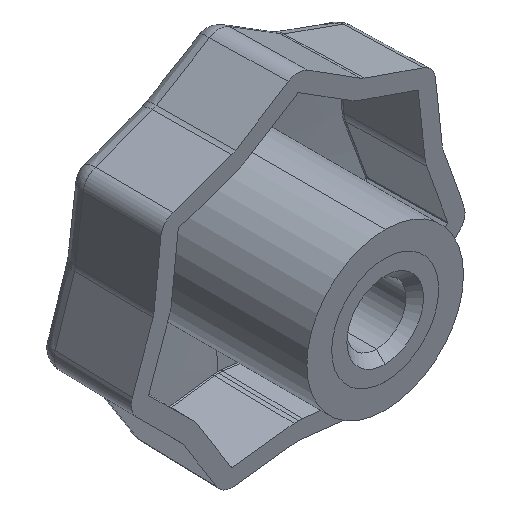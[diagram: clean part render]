
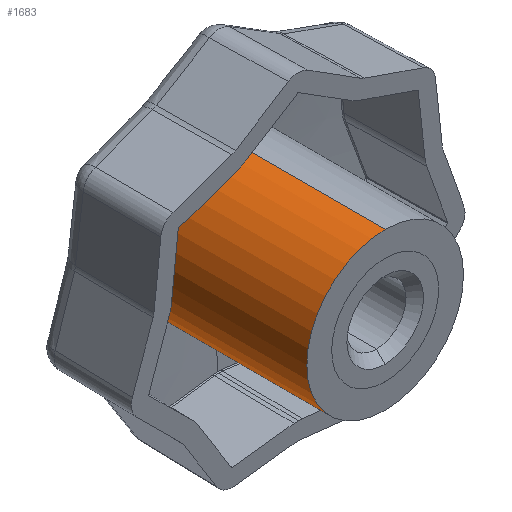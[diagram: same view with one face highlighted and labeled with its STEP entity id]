
A CAD part, isometric view. The second image highlights one B-rep face of the part: STEP entity #1683.
In plain terms, the highlighted cylindrical face has radius 9 mm (diameter 18 mm), a partial arc.
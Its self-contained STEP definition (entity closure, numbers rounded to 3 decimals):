
#18 = DIRECTION ( 'NONE',  ( 0., -1., 0. ) ) ;
#24 = VERTEX_POINT ( 'NONE', #2868 ) ;
#570 = ORIENTED_EDGE ( 'NONE', *, *, #3382, .T. ) ;
#643 = CARTESIAN_POINT ( 'NONE',  ( 0., 12.001, -9. ) ) ;
#740 = AXIS2_PLACEMENT_3D ( 'NONE', #4335, #18, #3965 ) ;
#1037 = DIRECTION ( 'NONE',  ( 0., -1., 0. ) ) ;
#1248 = VERTEX_POINT ( 'NONE', #4825 ) ;
#1569 = CARTESIAN_POINT ( 'NONE',  ( 0., -10., 0. ) ) ;
#1683 = ADVANCED_FACE ( 'NONE', ( #3933 ), #4812, .T. ) ;
#1733 = CARTESIAN_POINT ( 'NONE',  ( 0., 9.542, 0. ) ) ;
#1834 = LINE ( 'NONE', #643, #4904 ) ;
#1953 = DIRECTION ( 'NONE',  ( 0., 0., 1. ) ) ;
#2063 = AXIS2_PLACEMENT_3D ( 'NONE', #1733, #4442, #2124 ) ;
#2124 = DIRECTION ( 'NONE',  ( 0., 0., -1. ) ) ;
#2277 = DIRECTION ( 'NONE',  ( 0., -1., 0. ) ) ;
#2315 = LINE ( 'NONE', #3411, #3486 ) ;
#2454 = CARTESIAN_POINT ( 'NONE',  ( 0., -10., -9. ) ) ;
#2868 = CARTESIAN_POINT ( 'NONE',  ( 0., 9.542, 9. ) ) ;
#3033 = ORIENTED_EDGE ( 'NONE', *, *, #4394, .F. ) ;
#3314 = AXIS2_PLACEMENT_3D ( 'NONE', #1569, #4281, #1953 ) ;
#3382 = EDGE_CURVE ( 'NONE', #3521, #3930, #5027, .T. ) ;
#3411 = CARTESIAN_POINT ( 'NONE',  ( 0., 12.001, 9. ) ) ;
#3486 = VECTOR ( 'NONE', #1037, 1000. ) ;
#3514 = EDGE_LOOP ( 'NONE', ( #3033, #3767, #4237, #570 ) ) ;
#3521 = VERTEX_POINT ( 'NONE', #2454 ) ;
#3767 = ORIENTED_EDGE ( 'NONE', *, *, #4674, .T. ) ;
#3930 = VERTEX_POINT ( 'NONE', #4503 ) ;
#3933 = FACE_OUTER_BOUND ( 'NONE', #3514, .T. ) ;
#3965 = DIRECTION ( 'NONE',  ( 0., 0., -1. ) ) ;
#4027 = EDGE_CURVE ( 'NONE', #1248, #3521, #1834, .T. ) ;
#4237 = ORIENTED_EDGE ( 'NONE', *, *, #4027, .T. ) ;
#4281 = DIRECTION ( 'NONE',  ( 0., 1., 0. ) ) ;
#4335 = CARTESIAN_POINT ( 'NONE',  ( 0., 12.001, 0. ) ) ;
#4394 = EDGE_CURVE ( 'NONE', #24, #3930, #2315, .T. ) ;
#4427 = CIRCLE ( 'NONE', #2063, 9. ) ;
#4442 = DIRECTION ( 'NONE',  ( 0., -1., 0. ) ) ;
#4503 = CARTESIAN_POINT ( 'NONE',  ( 0., -10., 9. ) ) ;
#4674 = EDGE_CURVE ( 'NONE', #24, #1248, #4427, .T. ) ;
#4812 = CYLINDRICAL_SURFACE ( 'NONE', #740, 9. ) ;
#4825 = CARTESIAN_POINT ( 'NONE',  ( 0., 9.542, -9. ) ) ;
#4904 = VECTOR ( 'NONE', #2277, 1000. ) ;
#5027 = CIRCLE ( 'NONE', #3314, 9. ) ;
